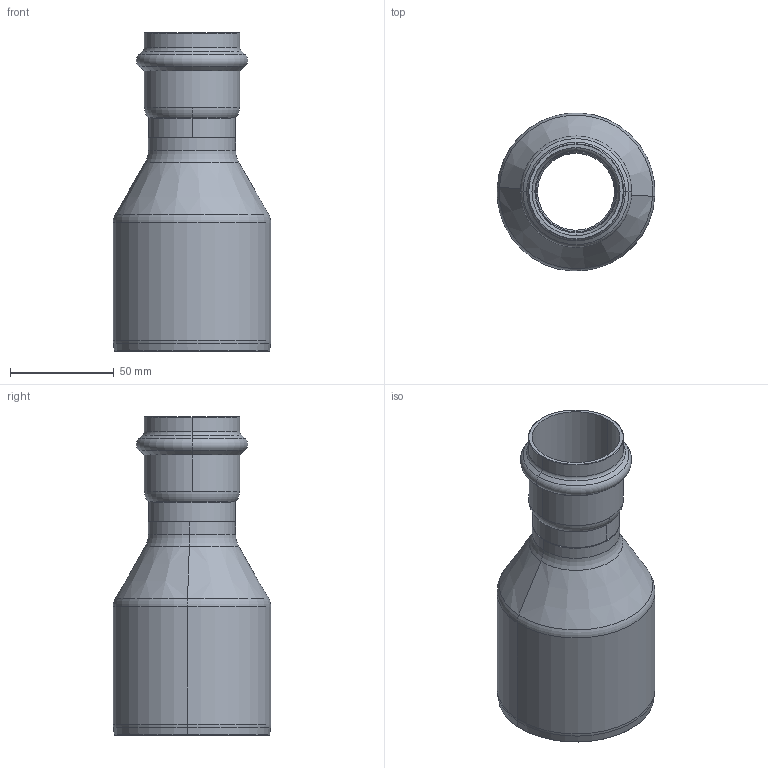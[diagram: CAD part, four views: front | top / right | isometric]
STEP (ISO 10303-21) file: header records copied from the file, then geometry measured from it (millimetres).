
FILE_DESCRIPTION(('Creo Elements/Direct Modeling STEP Export'),'2;1');
FILE_NAME('675142.6.stp','2018-06-29T14:47:46',(''),(''),'PTC Creo Elements/Direct Modeling STEP processor for AP214 (Solid Model)','PTC Creo Elements/Direct Modeling 19.0C 15-Aug-2015 (C) Parametric Technology GmbH','');
FILE_SCHEMA(('AUTOMOTIVE_DESIGN { 1 0 10303 214 1 1 1 1 }'));
Length unit declared in the file: millimetre
Products named in the file (5): 657006.7; Aanlasstuk_C-PR_42; 657044.1; 624360.0; 657142.2.1
Assembly tree (4 placements, depth 3):
  657142.2.1
    624360.0
    657044.1
      Aanlasstuk_C-PR_42
      657006.7
Bounding box: 75.97 x 75.97 x 153.49 mm (x, y, z)
Volume: 63441.7 mm3; surface area: 60227.6 mm2
Topology: 3 solids, 3 shells, 71 faces, 142 edges, 78 vertices
Faces by surface type: cone 26, torus 20, cylinder 18, plane 7
Entity records: 1779 total; most frequent: DIRECTION 314, ORIENTED_EDGE 284, CARTESIAN_POINT 257, EDGE_CURVE 142, AXIS2_PLACEMENT_3D 135, VERTEX_POINT 78, EDGE_LOOP 78, FACE_OUTER_BOUND 71
